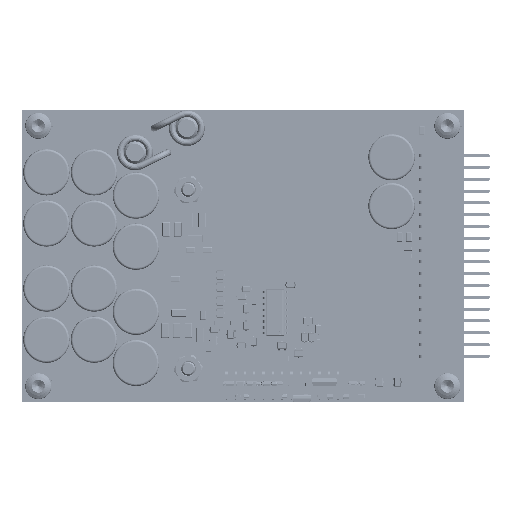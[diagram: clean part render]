
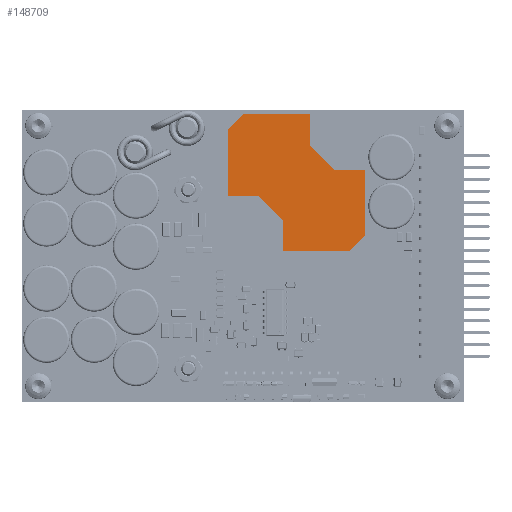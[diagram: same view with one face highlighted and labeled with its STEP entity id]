
A CAD part, left-side view. The second image highlights one B-rep face of the part: STEP entity #148709.
In plain terms, the highlighted planar face has unit normal (-1, 0, 0) as drawn and (0, 0, 1) by its records, which use the part's own axes.
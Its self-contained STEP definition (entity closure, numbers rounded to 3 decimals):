
#50159=VECTOR('',#166302,1.);
#50162=VECTOR('',#166306,1.);
#50165=VECTOR('',#166310,1.);
#50168=VECTOR('',#166314,1.);
#50171=VECTOR('',#166318,1.);
#50174=VECTOR('',#166322,1.);
#50177=VECTOR('',#166326,1.);
#50180=VECTOR('',#166330,1.);
#50183=VECTOR('',#166334,1.);
#50186=VECTOR('',#166338,1.);
#50189=VECTOR('',#166342,1.);
#50192=VECTOR('',#166346,1.);
#61626=LINE('',#192159,#50159);
#61629=LINE('',#192165,#50162);
#61632=LINE('',#192171,#50165);
#61635=LINE('',#192177,#50168);
#61638=LINE('',#192183,#50171);
#61641=LINE('',#192189,#50174);
#61644=LINE('',#192195,#50177);
#61647=LINE('',#192201,#50180);
#61650=LINE('',#192207,#50183);
#61653=LINE('',#192213,#50186);
#61656=LINE('',#192219,#50189);
#61659=LINE('',#192225,#50192);
#72402=PLANE('',#155383);
#77536=VERTEX_POINT('',#192158);
#77537=VERTEX_POINT('',#192160);
#77539=VERTEX_POINT('',#192166);
#77541=VERTEX_POINT('',#192172);
#77543=VERTEX_POINT('',#192178);
#77545=VERTEX_POINT('',#192184);
#77547=VERTEX_POINT('',#192190);
#77549=VERTEX_POINT('',#192196);
#77551=VERTEX_POINT('',#192202);
#77553=VERTEX_POINT('',#192208);
#77555=VERTEX_POINT('',#192214);
#77557=VERTEX_POINT('',#192220);
#89921=EDGE_CURVE('',#77536,#77537,#61626,.T.);
#89924=EDGE_CURVE('',#77537,#77539,#61629,.T.);
#89927=EDGE_CURVE('',#77539,#77541,#61632,.T.);
#89930=EDGE_CURVE('',#77541,#77543,#61635,.T.);
#89933=EDGE_CURVE('',#77543,#77545,#61638,.T.);
#89936=EDGE_CURVE('',#77545,#77547,#61641,.T.);
#89939=EDGE_CURVE('',#77547,#77549,#61644,.T.);
#89942=EDGE_CURVE('',#77549,#77551,#61647,.T.);
#89945=EDGE_CURVE('',#77551,#77553,#61650,.T.);
#89948=EDGE_CURVE('',#77553,#77555,#61653,.T.);
#89951=EDGE_CURVE('',#77555,#77557,#61656,.T.);
#89954=EDGE_CURVE('',#77557,#77536,#61659,.T.);
#106847=ORIENTED_EDGE('',*,*,#89954,.F.);
#106848=ORIENTED_EDGE('',*,*,#89951,.F.);
#106849=ORIENTED_EDGE('',*,*,#89948,.F.);
#106850=ORIENTED_EDGE('',*,*,#89945,.F.);
#106851=ORIENTED_EDGE('',*,*,#89942,.F.);
#106852=ORIENTED_EDGE('',*,*,#89939,.F.);
#106853=ORIENTED_EDGE('',*,*,#89936,.F.);
#106854=ORIENTED_EDGE('',*,*,#89933,.F.);
#106855=ORIENTED_EDGE('',*,*,#89930,.F.);
#106856=ORIENTED_EDGE('',*,*,#89927,.F.);
#106857=ORIENTED_EDGE('',*,*,#89924,.F.);
#106858=ORIENTED_EDGE('',*,*,#89921,.F.);
#135184=EDGE_LOOP('',(#106847,#106848,#106849,#106850,#106851,#106852,#106853,
#106854,#106855,#106856,#106857,#106858));
#142127=FACE_BOUND('',#135184,.T.);
#148709=ADVANCED_FACE('',(#142127),#72402,.F.);
#155383=AXIS2_PLACEMENT_3D('',#192228,#166349,$);
#166302=DIRECTION('',(1.,0.,0.));
#166306=DIRECTION('',(0.707,0.707,0.));
#166310=DIRECTION('',(0.,1.,0.));
#166314=DIRECTION('',(1.,0.,0.));
#166318=DIRECTION('',(0.707,-0.707,0.));
#166322=DIRECTION('',(0.,-1.,0.));
#166326=DIRECTION('',(-1.,0.,0.));
#166330=DIRECTION('',(-0.707,-0.707,0.));
#166334=DIRECTION('',(0.,-1.,0.));
#166338=DIRECTION('',(-1.,0.,0.));
#166342=DIRECTION('',(-0.707,0.707,0.));
#166346=DIRECTION('',(0.,1.,0.));
#166349=DIRECTION('',(0.,0.,-1.));
#192158=CARTESIAN_POINT('',(-14.732,2.794,24.9));
#192159=CARTESIAN_POINT('',(-14.732,2.794,24.9));
#192160=CARTESIAN_POINT('',(-8.128,2.794,24.9));
#192165=CARTESIAN_POINT('',(-8.128,2.794,24.9));
#192166=CARTESIAN_POINT('',(-2.794,8.128,24.9));
#192171=CARTESIAN_POINT('',(-2.794,8.128,24.9));
#192172=CARTESIAN_POINT('',(-2.794,14.732,24.9));
#192177=CARTESIAN_POINT('',(-2.794,14.732,24.9));
#192178=CARTESIAN_POINT('',(11.43,14.732,24.9));
#192183=CARTESIAN_POINT('',(11.43,14.732,24.9));
#192184=CARTESIAN_POINT('',(14.732,11.43,24.9));
#192189=CARTESIAN_POINT('',(14.732,11.43,24.9));
#192190=CARTESIAN_POINT('',(14.732,-3.048,24.9));
#192195=CARTESIAN_POINT('',(14.732,-3.048,24.9));
#192196=CARTESIAN_POINT('',(7.874,-3.048,24.9));
#192201=CARTESIAN_POINT('',(7.874,-3.048,24.9));
#192202=CARTESIAN_POINT('',(2.794,-8.128,24.9));
#192207=CARTESIAN_POINT('',(2.794,-8.128,24.9));
#192208=CARTESIAN_POINT('',(2.794,-14.732,24.9));
#192213=CARTESIAN_POINT('',(2.794,-14.732,24.9));
#192214=CARTESIAN_POINT('',(-11.43,-14.732,24.9));
#192219=CARTESIAN_POINT('',(-11.43,-14.732,24.9));
#192220=CARTESIAN_POINT('',(-14.732,-11.43,24.9));
#192225=CARTESIAN_POINT('',(-14.732,-11.43,24.9));
#192228=CARTESIAN_POINT('',(-14.732,2.794,24.9));
